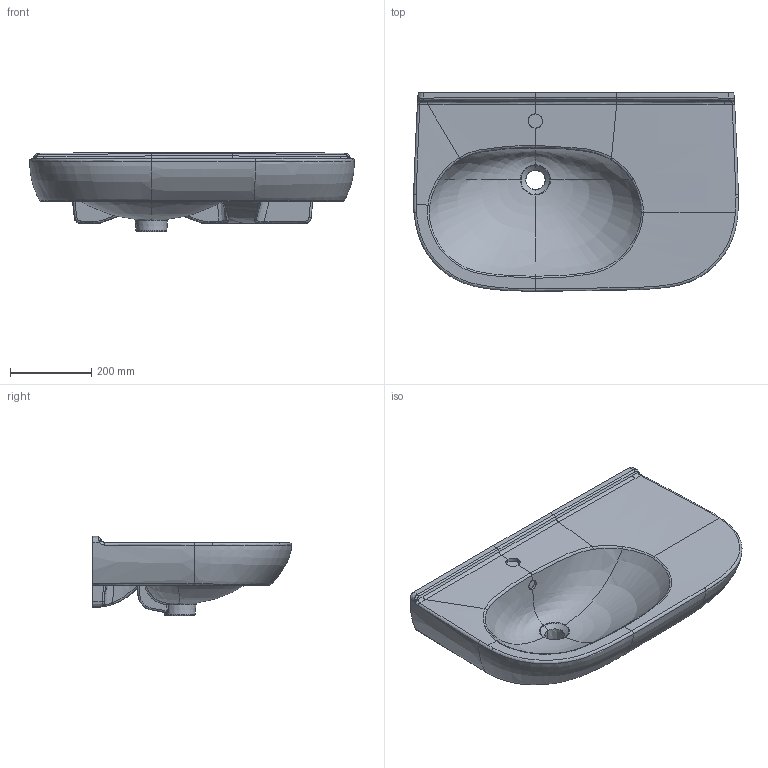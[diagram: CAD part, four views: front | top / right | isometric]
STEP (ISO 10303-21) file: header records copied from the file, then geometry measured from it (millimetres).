
FILE_DESCRIPTION(/* description */ (''),/* implementation_level */ '2;1');
FILE_NAME(/* name */ '516080_Onovo_SWT.stp',/* time_stamp */ '2019-04-01T14:08:01+02:00',/* author */ (''),/* organization */ (''),/* preprocessor_version */ 'ST-DEVELOPER v16',/* originating_system */ 'SIEMENS PLM Software NX 10.0',/* authorisation */ '');
FILE_SCHEMA (('AUTOMOTIVE_DESIGN { 1 0 10303 214 3 1 1 1 }'));
Products named in the file (1): Sier0B2485729yxf
Bounding box: 800.34 x 490 x 194.74 mm (x, y, z)
Volume: 26192262.2 mm3; surface area: 1119677.4 mm2
Topology: 1 solids, 1 shells, 196 faces, 506 edges, 306 vertices
Faces by surface type: bspline 151, plane 25, extrusion 10, cylinder 7, sphere 2, cone 1
Entity records: 34984 total; most frequent: CARTESIAN_POINT 31672, ORIENTED_EDGE 994, EDGE_CURVE 497, B_SPLINE_CURVE_WITH_KNOTS 351, VERTEX_POINT 304, DIRECTION 225, EDGE_LOOP 199, ADVANCED_FACE 196
